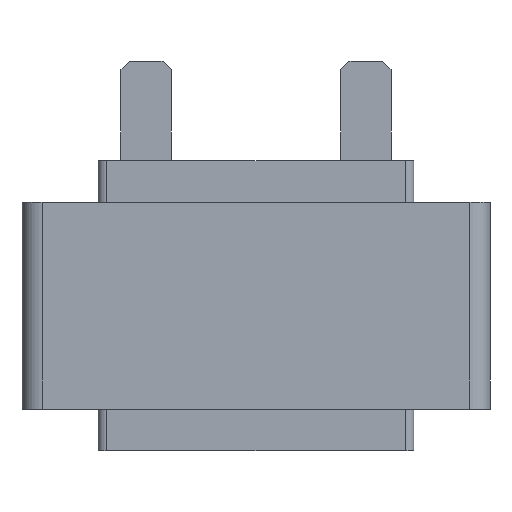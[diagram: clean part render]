
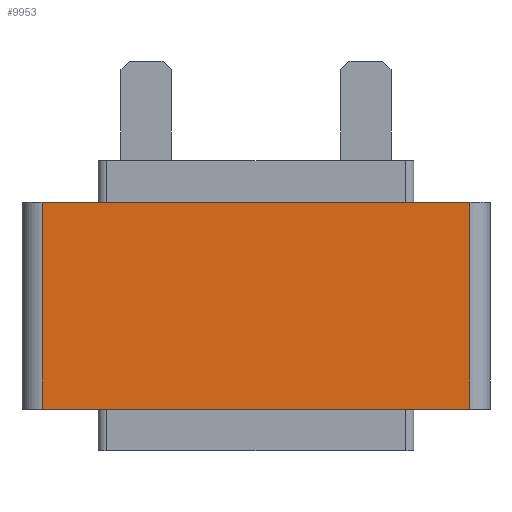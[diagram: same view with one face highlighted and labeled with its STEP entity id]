
A CAD part, front view. The second image highlights one B-rep face of the part: STEP entity #9953.
In plain terms, the highlighted planar face has unit normal (0, -1, 0).
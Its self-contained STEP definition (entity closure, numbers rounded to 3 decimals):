
#531 = EDGE_CURVE ( 'NONE', #20126, #12427, #17354, .T. ) ;
#988 = PLANE ( 'NONE',  #5360 ) ;
#1777 = LINE ( 'NONE', #12279, #21648 ) ;
#2750 = DIRECTION ( 'NONE',  ( 1., 0., 0. ) ) ;
#2813 = FACE_OUTER_BOUND ( 'NONE', #10662, .T. ) ;
#3742 = EDGE_CURVE ( 'NONE', #12427, #9725, #12262, .T. ) ;
#4053 = CARTESIAN_POINT ( 'NONE',  ( -25.43, -9.541, 12.3 ) ) ;
#5360 = AXIS2_PLACEMENT_3D ( 'NONE', #4053, #19271, #12702 ) ;
#5917 = DIRECTION ( 'NONE',  ( 0., 0., -1. ) ) ;
#6140 = CARTESIAN_POINT ( 'NONE',  ( 25.43, -9.541, 12.3 ) ) ;
#6407 = ORIENTED_EDGE ( 'NONE', *, *, #19369, .F. ) ;
#7868 = CARTESIAN_POINT ( 'NONE',  ( 25.43, -9.541, 12.3 ) ) ;
#7984 = VECTOR ( 'NONE', #5917, 1000. ) ;
#9404 = CARTESIAN_POINT ( 'NONE',  ( -25.43, -9.541, -12.3 ) ) ;
#9409 = ORIENTED_EDGE ( 'NONE', *, *, #531, .T. ) ;
#9656 = EDGE_CURVE ( 'NONE', #20126, #16106, #1777, .T. ) ;
#9725 = VERTEX_POINT ( 'NONE', #15536 ) ;
#9953 = ADVANCED_FACE ( 'NONE', ( #2813 ), #988, .F. ) ;
#10662 = EDGE_LOOP ( 'NONE', ( #11224, #6407, #14831, #9409 ) ) ;
#10728 = DIRECTION ( 'NONE',  ( 1., 0., 0. ) ) ;
#11224 = ORIENTED_EDGE ( 'NONE', *, *, #3742, .T. ) ;
#12262 = LINE ( 'NONE', #9404, #13314 ) ;
#12279 = CARTESIAN_POINT ( 'NONE',  ( -25.43, -9.541, 12.3 ) ) ;
#12427 = VERTEX_POINT ( 'NONE', #14922 ) ;
#12702 = DIRECTION ( 'NONE',  ( 0., 0., 1. ) ) ;
#12703 = LINE ( 'NONE', #6140, #7984 ) ;
#12867 = DIRECTION ( 'NONE',  ( 0., 0., -1. ) ) ;
#13314 = VECTOR ( 'NONE', #2750, 1000. ) ;
#14831 = ORIENTED_EDGE ( 'NONE', *, *, #9656, .F. ) ;
#14922 = CARTESIAN_POINT ( 'NONE',  ( -25.43, -9.541, -12.3 ) ) ;
#15006 = CARTESIAN_POINT ( 'NONE',  ( -25.43, -9.541, 12.3 ) ) ;
#15536 = CARTESIAN_POINT ( 'NONE',  ( 25.43, -9.541, -12.3 ) ) ;
#16106 = VERTEX_POINT ( 'NONE', #7868 ) ;
#17354 = LINE ( 'NONE', #18022, #20001 ) ;
#18022 = CARTESIAN_POINT ( 'NONE',  ( -25.43, -9.541, 12.3 ) ) ;
#19271 = DIRECTION ( 'NONE',  ( 0., 1., 0. ) ) ;
#19369 = EDGE_CURVE ( 'NONE', #16106, #9725, #12703, .T. ) ;
#20001 = VECTOR ( 'NONE', #12867, 1000. ) ;
#20126 = VERTEX_POINT ( 'NONE', #15006 ) ;
#21648 = VECTOR ( 'NONE', #10728, 1000. ) ;
